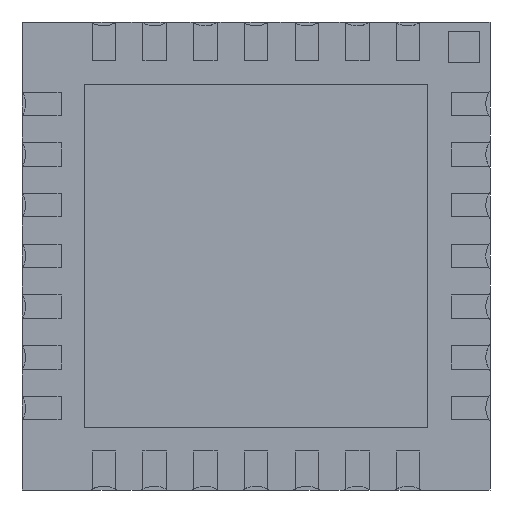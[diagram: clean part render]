
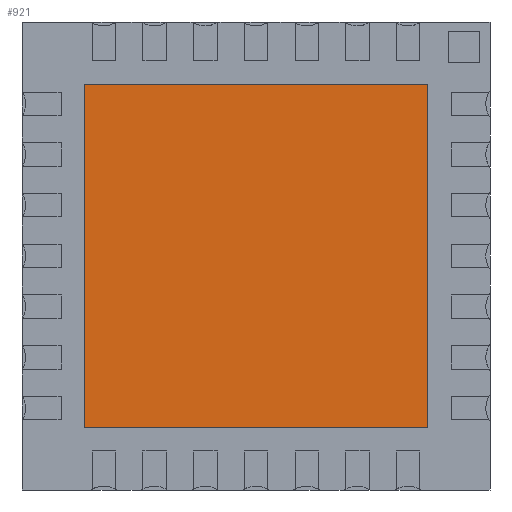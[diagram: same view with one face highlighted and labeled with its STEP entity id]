
A CAD part, front view. The second image highlights one B-rep face of the part: STEP entity #921.
In plain terms, the highlighted planar face has unit normal (0, -1, 0).
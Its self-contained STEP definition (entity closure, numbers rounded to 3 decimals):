
#919 = VERTEX_POINT ( 'NONE', #3389 ) ;
#921 = ADVANCED_FACE ( 'NONE', ( #3421 ), #3417, .T. ) ;
#922 = VERTEX_POINT ( 'NONE', #3390 ) ;
#923 = ORIENTED_EDGE ( 'NONE', *, *, #994, .T. ) ;
#924 = EDGE_CURVE ( 'NONE', #991, #922, #3410, .T. ) ;
#926 = ORIENTED_EDGE ( 'NONE', *, *, #981, .T. ) ;
#927 = VERTEX_POINT ( 'NONE', #3412 ) ;
#973 = EDGE_LOOP ( 'NONE', ( #974, #923, #926, #1039 ) ) ;
#974 = ORIENTED_EDGE ( 'NONE', *, *, #924, .T. ) ;
#981 = EDGE_CURVE ( 'NONE', #919, #927, #3514, .T. ) ;
#983 = EDGE_CURVE ( 'NONE', #927, #991, #3502, .T. ) ;
#991 = VERTEX_POINT ( 'NONE', #3515 ) ;
#994 = EDGE_CURVE ( 'NONE', #922, #919, #3549, .T. ) ;
#1039 = ORIENTED_EDGE ( 'NONE', *, *, #983, .T. ) ;
#3367 = DIRECTION ( 'NONE',  ( 0., 0., -1. ) ) ;
#3383 = AXIS2_PLACEMENT_3D ( 'NONE', #3420, #3413, #3367 ) ;
#3389 = CARTESIAN_POINT ( 'NONE',  ( 5.201, -0.01, -5.2 ) ) ;
#3390 = CARTESIAN_POINT ( 'NONE',  ( 0.801, -0.01, -5.2 ) ) ;
#3407 = DIRECTION ( 'NONE',  ( 0., 0., -1. ) ) ;
#3408 = VECTOR ( 'NONE', #3407, 1000. ) ;
#3409 = CARTESIAN_POINT ( 'NONE',  ( 0.801, -0.01, -5.2 ) ) ;
#3410 = LINE ( 'NONE', #3409, #3408 ) ;
#3412 = CARTESIAN_POINT ( 'NONE',  ( 5.201, -0.01, -0.8 ) ) ;
#3413 = DIRECTION ( 'NONE',  ( 0., -1., 0. ) ) ;
#3417 = PLANE ( 'NONE',  #3383 ) ;
#3420 = CARTESIAN_POINT ( 'NONE',  ( 0.801, -0.01, -5.2 ) ) ;
#3421 = FACE_OUTER_BOUND ( 'NONE', #973, .T. ) ;
#3495 = DIRECTION ( 'NONE',  ( -1., 0., 0. ) ) ;
#3496 = VECTOR ( 'NONE', #3495, 1000. ) ;
#3497 = CARTESIAN_POINT ( 'NONE',  ( 0.801, -0.01, -0.8 ) ) ;
#3499 = DIRECTION ( 'NONE',  ( 0., 0., 1. ) ) ;
#3500 = VECTOR ( 'NONE', #3499, 1000. ) ;
#3501 = CARTESIAN_POINT ( 'NONE',  ( 5.201, -0.01, -0.8 ) ) ;
#3502 = LINE ( 'NONE', #3497, #3496 ) ;
#3514 = LINE ( 'NONE', #3501, #3500 ) ;
#3515 = CARTESIAN_POINT ( 'NONE',  ( 0.801, -0.01, -0.8 ) ) ;
#3543 = DIRECTION ( 'NONE',  ( 1., 0., 0. ) ) ;
#3544 = VECTOR ( 'NONE', #3543, 1000. ) ;
#3545 = CARTESIAN_POINT ( 'NONE',  ( 5.201, -0.01, -5.2 ) ) ;
#3549 = LINE ( 'NONE', #3545, #3544 ) ;
